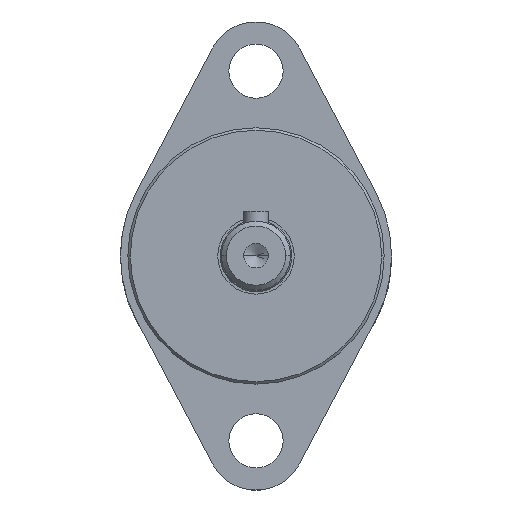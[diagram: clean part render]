
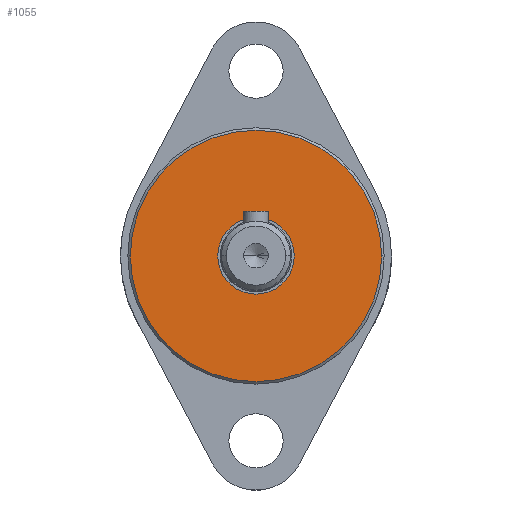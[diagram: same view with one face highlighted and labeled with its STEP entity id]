
A CAD part, top view. The second image highlights one B-rep face of the part: STEP entity #1055.
In plain terms, the highlighted planar face has unit normal (0, 0, 1).
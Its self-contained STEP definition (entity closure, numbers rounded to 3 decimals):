
#84 = AXIS2_PLACEMENT_3D ( 'NONE', #1470, #667, #930 ) ;
#247 = DIRECTION ( 'NONE',  ( 0., 0., 1. ) ) ;
#250 = CARTESIAN_POINT ( 'NONE',  ( 25.5, 0., -31.5 ) ) ;
#352 = AXIS2_PLACEMENT_3D ( 'NONE', #373, #1447, #1690 ) ;
#362 = DIRECTION ( 'NONE',  ( 1., 0., 0. ) ) ;
#373 = CARTESIAN_POINT ( 'NONE',  ( 0., 0., -31.5 ) ) ;
#399 = CARTESIAN_POINT ( 'NONE',  ( -7.75, 0., -31.5 ) ) ;
#406 = ORIENTED_EDGE ( 'NONE', *, *, #1151, .F. ) ;
#414 = ORIENTED_EDGE ( 'NONE', *, *, #612, .T. ) ;
#418 = VERTEX_POINT ( 'NONE', #1650 ) ;
#432 = FACE_OUTER_BOUND ( 'NONE', #859, .T. ) ;
#440 = ORIENTED_EDGE ( 'NONE', *, *, #1697, .T. ) ;
#516 = CIRCLE ( 'NONE', #84, 7.75 ) ;
#545 = EDGE_LOOP ( 'NONE', ( #1085, #406 ) ) ;
#612 = EDGE_CURVE ( 'NONE', #1745, #690, #1636, .T. ) ;
#619 = DIRECTION ( 'NONE',  ( 0., 0., -1. ) ) ;
#667 = DIRECTION ( 'NONE',  ( 0., 0., 1. ) ) ;
#690 = VERTEX_POINT ( 'NONE', #250 ) ;
#750 = CARTESIAN_POINT ( 'NONE',  ( 0., 7.75, -31.5 ) ) ;
#856 = DIRECTION ( 'NONE',  ( -1., 0., 0. ) ) ;
#859 = EDGE_LOOP ( 'NONE', ( #414, #440 ) ) ;
#862 = CARTESIAN_POINT ( 'NONE',  ( 0., 0., -31.5 ) ) ;
#930 = DIRECTION ( 'NONE',  ( 1., 0., 0. ) ) ;
#987 = CIRCLE ( 'NONE', #1006, 7.75 ) ;
#1006 = AXIS2_PLACEMENT_3D ( 'NONE', #862, #1266, #1144 ) ;
#1040 = CARTESIAN_POINT ( 'NONE',  ( -25.5, 0., -31.5 ) ) ;
#1055 = ADVANCED_FACE ( 'NONE', ( #1240, #432 ), #1367, .F. ) ;
#1085 = ORIENTED_EDGE ( 'NONE', *, *, #1245, .F. ) ;
#1144 = DIRECTION ( 'NONE',  ( 1., 0., 0. ) ) ;
#1151 = EDGE_CURVE ( 'NONE', #1486, #418, #987, .T. ) ;
#1238 = AXIS2_PLACEMENT_3D ( 'NONE', #1461, #247, #362 ) ;
#1240 = FACE_BOUND ( 'NONE', #545, .T. ) ;
#1245 = EDGE_CURVE ( 'NONE', #418, #1486, #516, .T. ) ;
#1266 = DIRECTION ( 'NONE',  ( 0., 0., 1. ) ) ;
#1367 = PLANE ( 'NONE',  #1743 ) ;
#1391 = CIRCLE ( 'NONE', #1238, 25.5 ) ;
#1447 = DIRECTION ( 'NONE',  ( 0., 0., 1. ) ) ;
#1461 = CARTESIAN_POINT ( 'NONE',  ( 0., 0., -31.5 ) ) ;
#1470 = CARTESIAN_POINT ( 'NONE',  ( 0., 0., -31.5 ) ) ;
#1486 = VERTEX_POINT ( 'NONE', #399 ) ;
#1636 = CIRCLE ( 'NONE', #352, 25.5 ) ;
#1650 = CARTESIAN_POINT ( 'NONE',  ( 7.75, 0., -31.5 ) ) ;
#1690 = DIRECTION ( 'NONE',  ( 1., 0., 0. ) ) ;
#1697 = EDGE_CURVE ( 'NONE', #690, #1745, #1391, .T. ) ;
#1743 = AXIS2_PLACEMENT_3D ( 'NONE', #750, #619, #856 ) ;
#1745 = VERTEX_POINT ( 'NONE', #1040 ) ;
